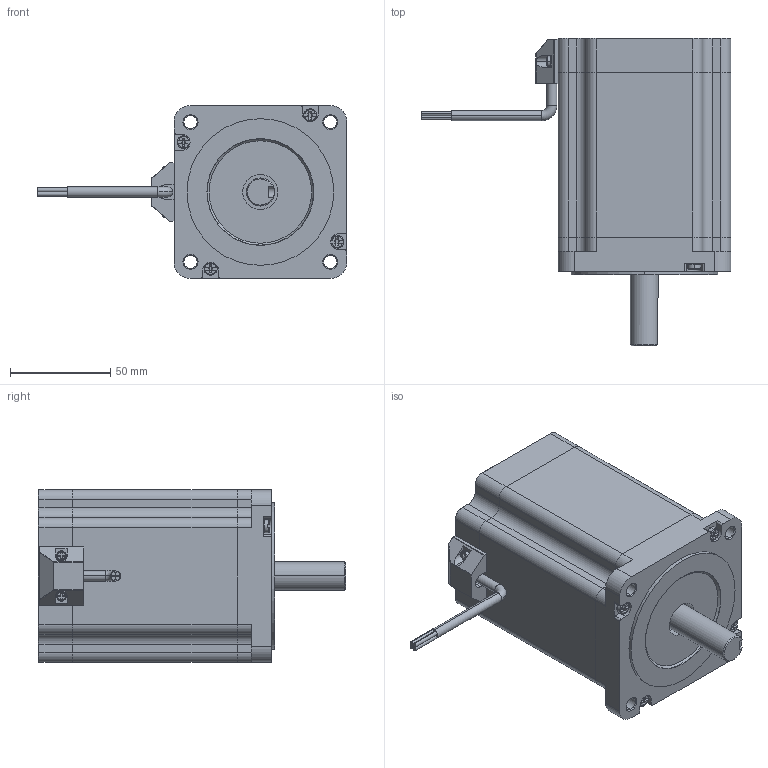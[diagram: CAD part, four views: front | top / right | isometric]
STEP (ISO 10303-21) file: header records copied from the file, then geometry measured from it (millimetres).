
FILE_DESCRIPTION (( 'STEP AP214' ), '1' );
FILE_NAME ('86BYGH2120-6004A.STEP', '2018-09-21T01:07:17', ( 'Windows' ), ( 'Microsoft' ), 'SwSTEP 2.0', 'SolidWorks 2015', '' );
FILE_SCHEMA (( 'AUTOMOTIVE_DESIGN' ));
Length unit declared in the file: millimetre
Products named in the file (8): 粣; 86BYGH2120-6004A; M3x8; M4x54; 86揤盄裔; 86綴傷裔; 86ヶ傷裔; 86隅赽82
Assembly tree (11 placements, depth 2):
  86BYGH2120-6004A
    86隅赽82
    86ヶ傷裔
    86綴傷裔
    86揤盄裔
    M4x54  x4
    M3x8  x2
    粣
Bounding box: 154.09 x 153 x 86 mm (x, y, z)
Volume: 790888.9 mm3; surface area: 100406 mm2
Topology: 15 solids, 15 shells, 470 faces, 1198 edges, 765 vertices
Faces by surface type: cylinder 199, plane 196, torus 52, cone 17, bspline 4, sphere 2
Entity records: 13090 total; most frequent: CARTESIAN_POINT 1976, DIRECTION 1950, ORIENTED_EDGE 1754, EDGE_CURVE 877, AXIS2_PLACEMENT_3D 746, VERTEX_POINT 562, LINE 458, VECTOR 458
